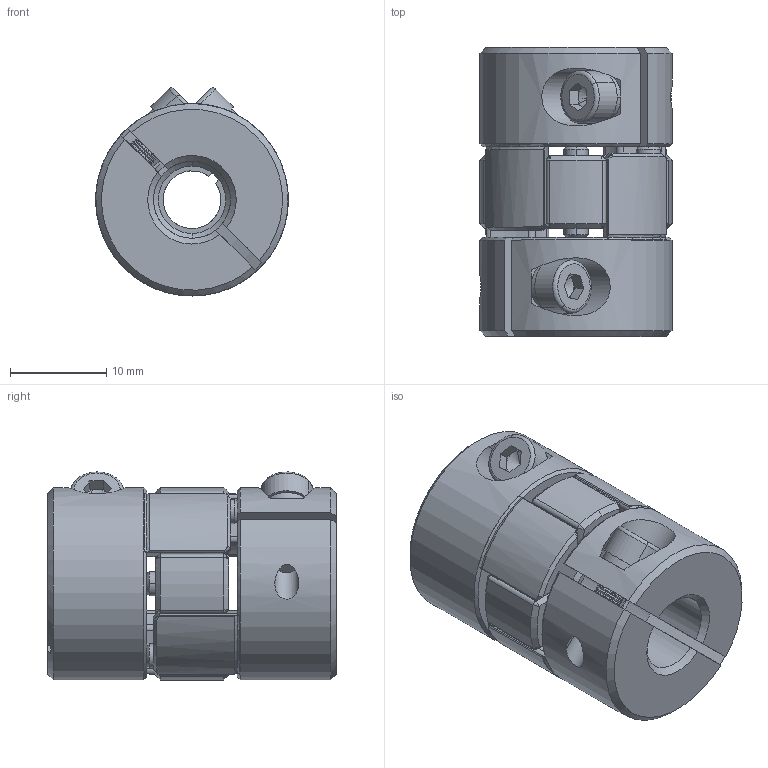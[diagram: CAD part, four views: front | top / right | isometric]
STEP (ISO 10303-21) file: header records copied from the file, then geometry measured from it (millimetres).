
FILE_DESCRIPTION (( 'STEP AP203' ), '1' );
FILE_NAME ('LF-B-D20L30-6-8.STEP', '2021-10-27T02:49:46', ( '' ), ( '' ), 'SwSTEP 2.0', 'SolidWorks 2018', '' );
FILE_SCHEMA (( 'CONFIG_CONTROL_DESIGN' ));
Length unit declared in the file: millimetre
Products named in the file (1): LF-B-D20L30-6-8
Bounding box: 20 x 30 x 21.62 mm (x, y, z)
Volume: 7528 mm3; surface area: 4874.4 mm2
Topology: 1 solids, 1 shells, 518 faces, 1253 edges, 691 vertices
Faces by surface type: cone 252, cylinder 192, plane 62, torus 12
Entity records: 15024 total; most frequent: CARTESIAN_POINT 2904, DIRECTION 2742, ORIENTED_EDGE 2426, EDGE_CURVE 1213, AXIS2_PLACEMENT_3D 1107, VERTEX_POINT 691, CIRCLE 588, EDGE_LOOP 546
